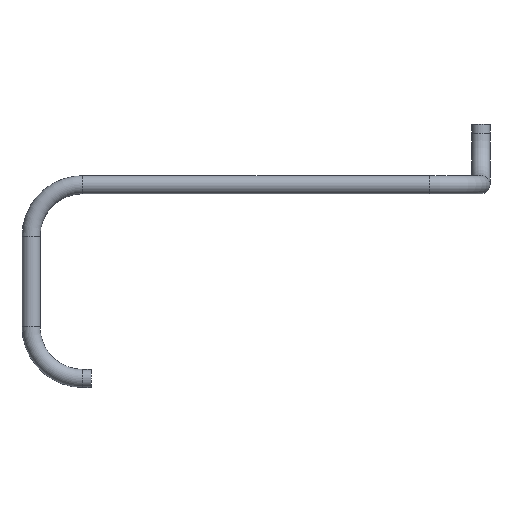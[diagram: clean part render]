
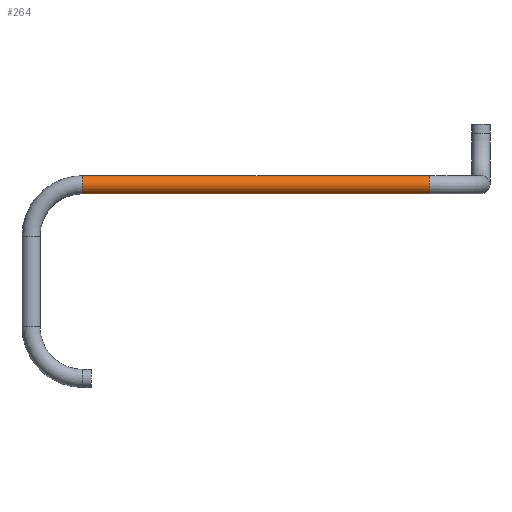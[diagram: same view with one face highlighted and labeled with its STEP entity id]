
A CAD part, front view. The second image highlights one B-rep face of the part: STEP entity #264.
In plain terms, the highlighted cylindrical face has radius 0.525 mm (diameter 1.05 mm), a full revolution.
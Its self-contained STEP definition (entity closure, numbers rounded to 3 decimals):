
#198 = TOROIDAL_SURFACE('',#199,3.,0.525);
#199 = AXIS2_PLACEMENT_3D('',#200,#201,#202);
#200 = CARTESIAN_POINT('',(-29.5,-20.99,-12.5));
#201 = DIRECTION('',(0.,1.,-0.));
#202 = DIRECTION('',(-1.,0.,0.));
#215 = VERTEX_POINT('',#216);
#216 = CARTESIAN_POINT('',(-29.5,-20.99,-8.975));
#237 = EDGE_CURVE('',#215,#215,#238,.T.);
#238 = SURFACE_CURVE('',#239,(#244,#251),.PCURVE_S1.);
#239 = CIRCLE('',#240,0.525);
#240 = AXIS2_PLACEMENT_3D('',#241,#242,#243);
#241 = CARTESIAN_POINT('',(-29.5,-20.99,-9.5));
#242 = DIRECTION('',(-1.,0.,0.));
#243 = DIRECTION('',(0.,0.,1.));
#244 = PCURVE('',#198,#245);
#245 = DEFINITIONAL_REPRESENTATION('',(#246),#250);
#246 = LINE('',#247,#248);
#247 = CARTESIAN_POINT('',(1.571,0.));
#248 = VECTOR('',#249,1.);
#249 = DIRECTION('',(0.,1.));
#250 = ( GEOMETRIC_REPRESENTATION_CONTEXT(2) 
PARAMETRIC_REPRESENTATION_CONTEXT() REPRESENTATION_CONTEXT('2D SPACE',''
  ) );
#251 = PCURVE('',#252,#257);
#252 = CYLINDRICAL_SURFACE('',#253,0.525);
#253 = AXIS2_PLACEMENT_3D('',#254,#255,#256);
#254 = CARTESIAN_POINT('',(-29.5,-20.99,-9.5));
#255 = DIRECTION('',(1.,0.,0.));
#256 = DIRECTION('',(0.,0.,1.));
#257 = DEFINITIONAL_REPRESENTATION('',(#258),#261);
#258 = B_SPLINE_CURVE_WITH_KNOTS('',1,(#259,#260),.UNSPECIFIED.,.F.,.F.,
  (2,2),(0.,6.283),.PIECEWISE_BEZIER_KNOTS.);
#259 = CARTESIAN_POINT('',(6.283,0.));
#260 = CARTESIAN_POINT('',(0.,0.));
#261 = ( GEOMETRIC_REPRESENTATION_CONTEXT(2) 
PARAMETRIC_REPRESENTATION_CONTEXT() REPRESENTATION_CONTEXT('2D SPACE',''
  ) );
#264 = ADVANCED_FACE('',(#265),#252,.T.);
#265 = FACE_BOUND('',#266,.T.);
#266 = EDGE_LOOP('',(#267,#289,#315,#316));
#267 = ORIENTED_EDGE('',*,*,#268,.T.);
#268 = EDGE_CURVE('',#215,#269,#271,.T.);
#269 = VERTEX_POINT('',#270);
#270 = CARTESIAN_POINT('',(-9.35,-20.99,-8.975));
#271 = SEAM_CURVE('',#272,(#276,#282),.PCURVE_S1.);
#272 = LINE('',#273,#274);
#273 = CARTESIAN_POINT('',(-29.5,-20.99,-8.975));
#274 = VECTOR('',#275,1.);
#275 = DIRECTION('',(1.,0.,0.));
#276 = PCURVE('',#252,#277);
#277 = DEFINITIONAL_REPRESENTATION('',(#278),#281);
#278 = B_SPLINE_CURVE_WITH_KNOTS('',1,(#279,#280),.UNSPECIFIED.,.F.,.F.,
  (2,2),(0.,20.15),.PIECEWISE_BEZIER_KNOTS.);
#279 = CARTESIAN_POINT('',(6.283,0.));
#280 = CARTESIAN_POINT('',(6.283,20.15));
#281 = ( GEOMETRIC_REPRESENTATION_CONTEXT(2) 
PARAMETRIC_REPRESENTATION_CONTEXT() REPRESENTATION_CONTEXT('2D SPACE',''
  ) );
#282 = PCURVE('',#252,#283);
#283 = DEFINITIONAL_REPRESENTATION('',(#284),#288);
#284 = LINE('',#285,#286);
#285 = CARTESIAN_POINT('',(0.,0.));
#286 = VECTOR('',#287,1.);
#287 = DIRECTION('',(0.,1.));
#288 = ( GEOMETRIC_REPRESENTATION_CONTEXT(2) 
PARAMETRIC_REPRESENTATION_CONTEXT() REPRESENTATION_CONTEXT('2D SPACE',''
  ) );
#289 = ORIENTED_EDGE('',*,*,#290,.F.);
#290 = EDGE_CURVE('',#269,#269,#291,.T.);
#291 = SURFACE_CURVE('',#292,(#297,#304),.PCURVE_S1.);
#292 = CIRCLE('',#293,0.525);
#293 = AXIS2_PLACEMENT_3D('',#294,#295,#296);
#294 = CARTESIAN_POINT('',(-9.35,-20.99,-9.5));
#295 = DIRECTION('',(1.,0.,-0.));
#296 = DIRECTION('',(0.,0.,1.));
#297 = PCURVE('',#252,#298);
#298 = DEFINITIONAL_REPRESENTATION('',(#299),#303);
#299 = LINE('',#300,#301);
#300 = CARTESIAN_POINT('',(0.,20.15));
#301 = VECTOR('',#302,1.);
#302 = DIRECTION('',(1.,0.));
#303 = ( GEOMETRIC_REPRESENTATION_CONTEXT(2) 
PARAMETRIC_REPRESENTATION_CONTEXT() REPRESENTATION_CONTEXT('2D SPACE',''
  ) );
#304 = PCURVE('',#305,#310);
#305 = TOROIDAL_SURFACE('',#306,3.,0.525);
#306 = AXIS2_PLACEMENT_3D('',#307,#308,#309);
#307 = CARTESIAN_POINT('',(-9.35,-17.99,-9.5));
#308 = DIRECTION('',(-0.,0.,1.));
#309 = DIRECTION('',(0.,-1.,0.));
#310 = DEFINITIONAL_REPRESENTATION('',(#311),#314);
#311 = B_SPLINE_CURVE_WITH_KNOTS('',1,(#312,#313),.UNSPECIFIED.,.F.,.F.,
  (2,2),(0.,6.283),.PIECEWISE_BEZIER_KNOTS.);
#312 = CARTESIAN_POINT('',(0.,7.854));
#313 = CARTESIAN_POINT('',(0.,1.571));
#314 = ( GEOMETRIC_REPRESENTATION_CONTEXT(2) 
PARAMETRIC_REPRESENTATION_CONTEXT() REPRESENTATION_CONTEXT('2D SPACE',''
  ) );
#315 = ORIENTED_EDGE('',*,*,#268,.F.);
#316 = ORIENTED_EDGE('',*,*,#237,.F.);
